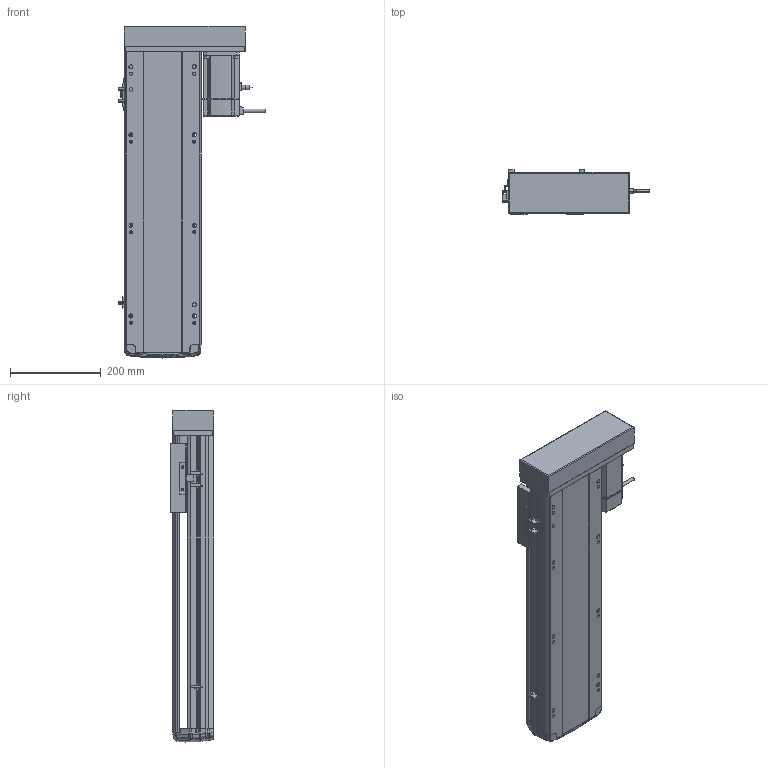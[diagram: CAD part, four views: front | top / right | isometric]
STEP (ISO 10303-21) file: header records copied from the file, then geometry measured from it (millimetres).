
FILE_DESCRIPTION (( 'STEP AP214' ), '1' );
FILE_NAME ('RTH17-XX-450-L-M75-C4.STEP', '2025-10-24T10:32:26', ( '' ), ( '' ), 'SwSTEP 2.0', 'SolidWorks 2018', '' );
FILE_SCHEMA (( 'AUTOMOTIVE_DESIGN' ));
Length unit declared in the file: millimetre
Products named in the file (10): N_RTH17-E-004丝杆螺母连接座^RTH17-XX-XX-L-M75-C4（方程式）; N_M75^RTH17-XX-XX-L-M75-C4（方程式）; N_RTH17-L-018盖子^RTH17-XX-XX-L-M75-C4（方程式）; N_RTH17-M-007上盖^RTH17-XX-XX-L-M75-C4（方程式）; N_RTH-L-012 感应片(外置)^RTH17-XX-XX-L-M75-C4（方程式）; N_OMRON EE-SX672 換覜ん^RTH17-XX-XX-L-M75-C4ㄗ源最宒ㄘ; RTH17-XX-450-L-M75-C4; N_RTH17-L-008-P75电机安装板左转折^RTH17-XX-XX-L-M75-C4（方程式）; N_RTH17-GY-001P^RTH17-XX-XX-L-M75-C4（方程式）; N_RTH17-M-011底座^RTH17-XX-XX-L-M75-C4（方程式）
Assembly tree (11 placements, depth 2):
  RTH17-XX-450-L-M75-C4
    N_RTH17-M-011底座^RTH17-XX-XX-L-M75-C4（方程式）
    N_RTH17-M-007上盖^RTH17-XX-XX-L-M75-C4（方程式）
    N_M75^RTH17-XX-XX-L-M75-C4（方程式）
    N_OMRON EE-SX672 換覜ん^RTH17-XX-XX-L-M75-C4ㄗ源最宒ㄘ  x3
    N_RTH-L-012 感应片(外置)^RTH17-XX-XX-L-M75-C4（方程式）
    N_RTH17-L-008-P75电机安装板左转折^RTH17-XX-XX-L-M75-C4（方程式）
    N_RTH17-L-018盖子^RTH17-XX-XX-L-M75-C4（方程式）
    N_RTH17-E-004丝杆螺母连接座^RTH17-XX-XX-L-M75-C4（方程式）
    N_RTH17-GY-001P^RTH17-XX-XX-L-M75-C4（方程式）
Bounding box: 326.7 x 97 x 733.07 mm (x, y, z)
Volume: 7451029.3 mm3; surface area: 934616.1 mm2
Topology: 13 solids, 15 shells, 1725 faces, 4727 edges, 3058 vertices
Faces by surface type: plane 829, cylinder 482, bspline 377, cone 28, torus 9
Entity records: 49821 total; most frequent: CARTESIAN_POINT 19987, ORIENTED_EDGE 6478, DIRECTION 5383, EDGE_CURVE 3243, VERTEX_POINT 2094, AXIS2_PLACEMENT_3D 1801, LINE 1781, VECTOR 1781
